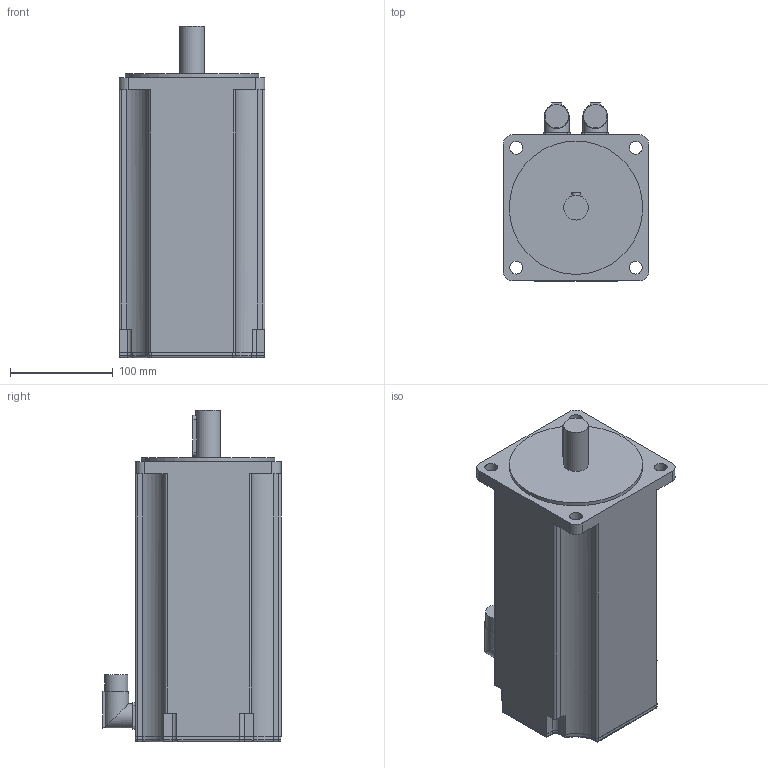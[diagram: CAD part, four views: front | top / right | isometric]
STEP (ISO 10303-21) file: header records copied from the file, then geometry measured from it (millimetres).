
FILE_DESCRIPTION(/* description */ (''),/* implementation_level */ '2;1');
FILE_NAME(/* name */ '\\Lafnas01\disegni\Archivi Lafert\3D\CAD 3D\MODELLI\Assiemi clienti\Serad\Modelli 3D Serad\B71Q\Resolver\Res With Brake\B7120Qxx6B052033.ipt.stp',/* time_stamp */ '2015-09-07T10:52:52+02:00',/* author */ ('Pastrello Ylenia'),/* organization */ (''),/* preprocessor_version */ 'ST-DEVELOPER v15.6',/* originating_system */ 'Autodesk Inventor 2015',/* authorisation */ '');
FILE_SCHEMA (('AUTOMOTIVE_DESIGN { 1 0 10303 214 3 1 1 }'));
Length unit declared in the file: millimetre
Products named in the file (1): B7120Qxx6B052033
Bounding box: 142 x 173.5 x 323 mm (x, y, z)
Volume: 4877553.9 mm3; surface area: 196581 mm2
Topology: 1 solids, 1 shells, 154 faces, 400 edges, 258 vertices
Faces by surface type: plane 72, cylinder 70, torus 8, sphere 4
Full cylindrical faces by diameter (mm): 12.5 x4, 22.7 x2, 24 x3, 130 x1
Entity records: 4790 total; most frequent: CARTESIAN_POINT 933, DIRECTION 828, ORIENTED_EDGE 772, EDGE_CURVE 386, AXIS2_PLACEMENT_3D 297, VERTEX_POINT 254, LINE 234, VECTOR 234
